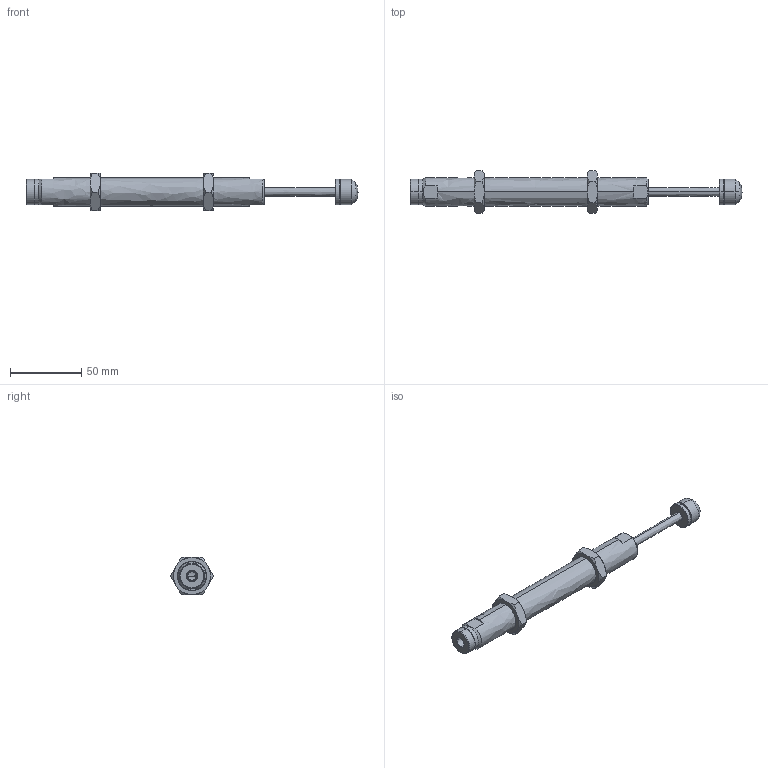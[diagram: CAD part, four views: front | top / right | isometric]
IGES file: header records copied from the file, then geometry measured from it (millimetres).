
Start section: SolidWorks IGES file using analytic representation for surfaces
Global section: file name: D:\IGS跡宒\AC2050(XF)-SH.IGS,1; native system: 5HSolidWorks 2013; preprocessor: SolidWorks 2013; author: Administrator; date: 160406.152158; units: inch
Bounding box: 232.8 x 30.02 x 26 mm (x, y, z)
Surface area: 22043.7 mm2 (no closed solid volume)
Topology: 0 solids, 0 shells, 114 faces, 1720 edges, 1719 vertices
Faces by surface type: revolution 82, bspline 32
